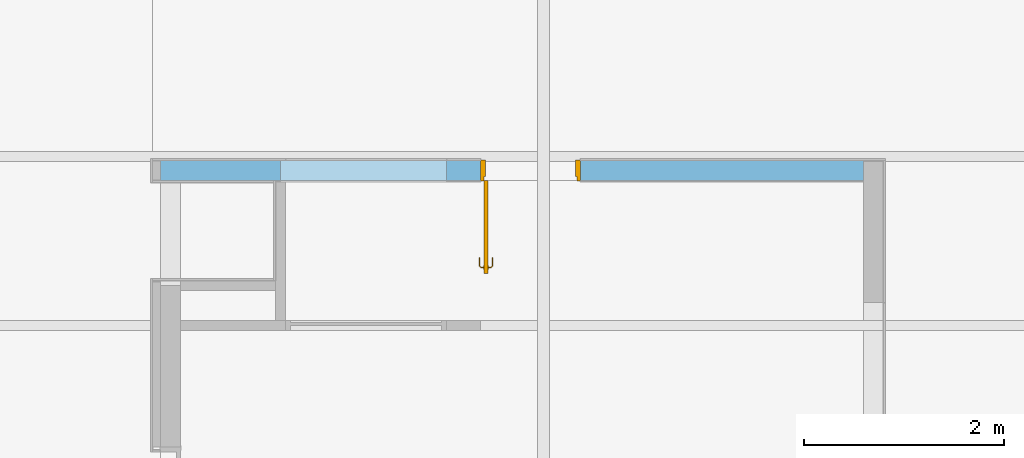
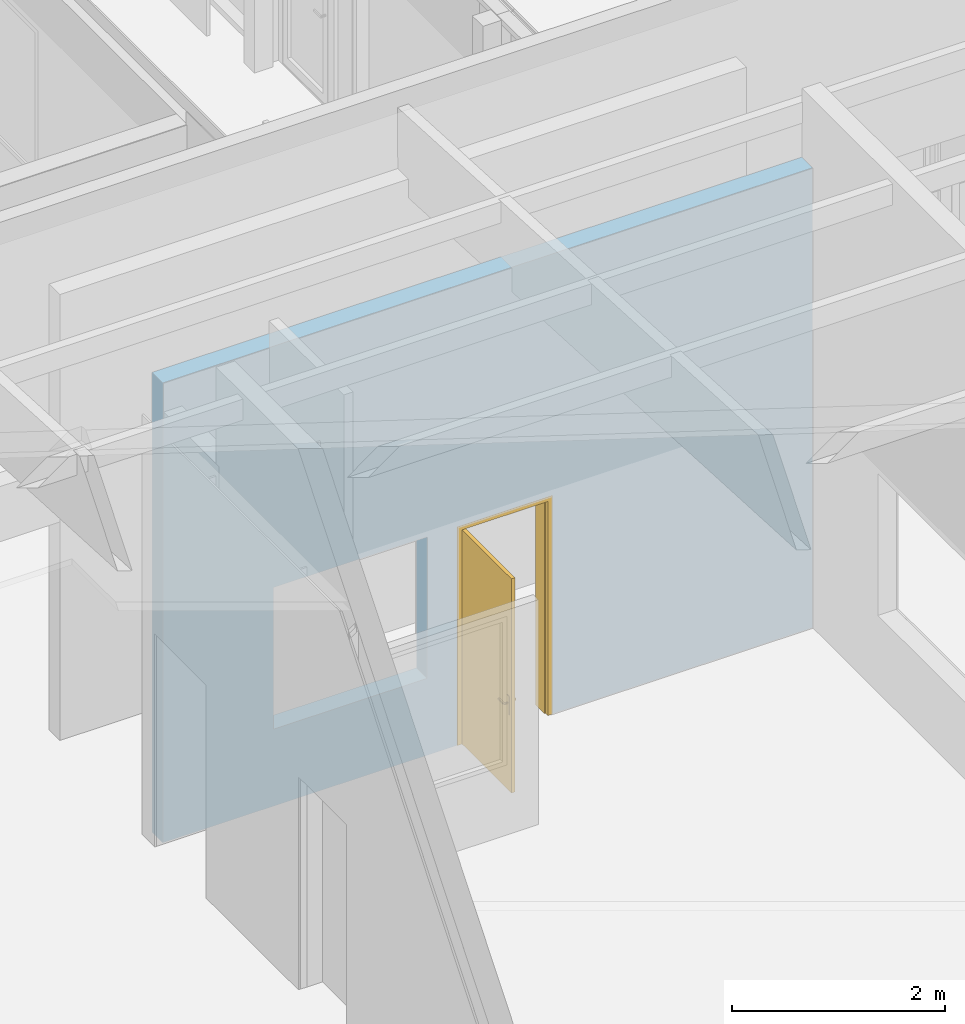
# One storey, part 190 of 240: 1 door, 2 openings, plus 1 element that does not belong to this part.
"""IFC2X3 building model written with IfcOpenShell, lengths in centimetres."""

import ifcopenshell
import ifcopenshell.guid

model = None  # the IFC model being written
_history = None  # IfcOwnerHistory: only IFC2X3 demands one
_inside = {}  # id of a spatial element -> (the spatial element, [elements in it])
_under = {}  # id of a project, library or spatial element -> (it, [spatial elements below it])
_declared = {}  # id of a project -> (the project, [libraries it declares])
_typed = {}  # id of a type object -> (the type object, [elements of that type])
_made_of = {}  # id of a material, layer set ... -> (it, [elements and type objects made of it])


def new_model(schema):
    """Start an empty IFC model of exactly this schema.

    Asked for "IFC4X3", IfcOpenShell would pick the latest addendum, in which some entities
    have other attributes; the version numbers below select the first issue.
    IFC2X3 requires an IfcOwnerHistory on every rooted entity: one is made here for all.
    """
    global model, _history
    if schema == "IFC4X3":
        model = ifcopenshell.file(schema_version=(4, 3, 0, 0))
    else:
        model = ifcopenshell.file(schema=schema)
    _inside.clear()
    _under.clear()
    _declared.clear()
    _typed.clear()
    _made_of.clear()
    _history = None
    if model.schema == "IFC2X3":
        org = make("IfcOrganization", Name="unknown")
        user = make(
            "IfcPersonAndOrganization",
            ThePerson=make("IfcPerson", FamilyName="unknown"),
            TheOrganization=org,
        )
        app = make(
            "IfcApplication",
            ApplicationDeveloper=org,
            Version="unknown",
            ApplicationFullName="unknown",
            ApplicationIdentifier="unknown",
        )
        _history = make(
            "IfcOwnerHistory",
            OwningUser=user,
            OwningApplication=app,
            ChangeAction="ADDED",
            CreationDate=0,
        )
    return model


def make(cls, **values):
    """One entity of the class cls with the attributes given. An attribute that is None is left unset."""
    return model.create_entity(
        cls, **{name: value for name, value in values.items() if value is not None}
    )


def entity(cls, *values):
    """Any entity or typed value of the class cls, its attributes in the order of the schema. None: left unset."""
    e = model.create_entity(cls)
    for i, value in enumerate(values):
        if value is not None:
            e[i] = value
    return e


def rooted(cls, **values):
    """An entity with a GlobalId (a new one), such as an element, a storey or a relation."""
    return make(cls, GlobalId=ifcopenshell.guid.new(), OwnerHistory=_history, **values)


def si_unit(unit_type, name, prefix=None):
    """IfcSIUnit, for example si_unit("LENGTHUNIT", "METRE", prefix="MILLI")."""
    return make("IfcSIUnit", UnitType=unit_type, Prefix=prefix, Name=name)


def converted_unit(unit_type, name, factor, base, dimensions=None, offset=None):
    """IfcConversionBasedUnit, such as the inch: factor (a typed value) times the base unit."""
    return make(
        "IfcConversionBasedUnit"
        if offset is None
        else "IfcConversionBasedUnitWithOffset",
        ConversionOffset=offset,
        Dimensions=None
        if dimensions is None
        else entity("IfcDimensionalExponents", *dimensions),
        UnitType=unit_type,
        Name=name,
        ConversionFactor=make(
            "IfcMeasureWithUnit", ValueComponent=factor, UnitComponent=base
        ),
    )


def derived_unit(unit_type, elements):
    """IfcDerivedUnit: a product of units, each with its exponent."""
    return make(
        "IfcDerivedUnit",
        Elements=[
            make("IfcDerivedUnitElement", Unit=unit, Exponent=power)
            for unit, power in elements
        ],
        UnitType=unit_type,
    )


def assignment(units):
    """IfcUnitAssignment: the units of a project."""
    return None if units is None else make("IfcUnitAssignment", Units=units)


def point(xyz):
    """IfcCartesianPoint."""
    return None if xyz is None else make("IfcCartesianPoint", Coordinates=xyz)


def direction(xyz):
    """IfcDirection."""
    return None if xyz is None else make("IfcDirection", DirectionRatios=xyz)


def frame(location, z_axis=None, x_axis=None):
    """IfcAxis2Placement3D, a coordinate frame: its origin and axes. An axis left out is left unset."""
    return make(
        "IfcAxis2Placement3D",
        Location=point(location),
        Axis=direction(z_axis),
        RefDirection=direction(x_axis),
    )


def frame_2d(location, x_axis=None):
    """IfcAxis2Placement2D, a coordinate frame in the plane: its origin and x axis."""
    return make(
        "IfcAxis2Placement2D", Location=point(location), RefDirection=direction(x_axis)
    )


def origin():
    """The frame at (0, 0, 0) with its axes left unset."""
    return frame((0.0, 0.0, 0.0))


def place(relative_to, where):
    """IfcLocalPlacement: puts the frame where relative to a parent placement (None: the world)."""
    return make(
        "IfcLocalPlacement", PlacementRelTo=relative_to, RelativePlacement=where
    )


def context(
    kind, dimensions, precision=None, world=None, true_north=None, identifier=None
):
    """IfcGeometricRepresentationContext, for example the 3D "Model" context."""
    return make(
        "IfcGeometricRepresentationContext",
        ContextIdentifier=identifier,
        ContextType=kind,
        CoordinateSpaceDimension=dimensions,
        Precision=precision,
        WorldCoordinateSystem=world,
        TrueNorth=true_north,
    )


def subcontext(parent, identifier, kind, view, scale=None):
    """IfcGeometricRepresentationSubContext, for example "Body" below "Model"."""
    return make(
        "IfcGeometricRepresentationSubContext",
        ContextIdentifier=identifier,
        ContextType=kind,
        ParentContext=parent,
        TargetScale=scale,
        TargetView=view,
    )


def project(units=None, contexts=None):
    """IfcProject with its units and contexts."""
    return rooted(
        "IfcProject",
        Name="project",
        RepresentationContexts=contexts,
        UnitsInContext=assignment(units),
    )


def spatial(cls, under=None, at=None, **own):
    """A site, building, storey or space (cls), placed at a placement, below another one or the project."""
    s = rooted(cls, ObjectPlacement=at, **own)
    if under is not None:
        _under.setdefault(under.id(), (under, []))[1].append(s)
    return s


def profile(cls, at=None, kind="AREA", **sizes):
    """A parametric profile (cls). Its sizes go by their IFC names, for example OverallWidth=200.0."""
    return make(cls, ProfileType=kind, Position=at, **sizes)


def rectangle(**sizes):
    """IfcRectangleProfileDef."""
    return profile("IfcRectangleProfileDef", **sizes)


def extrude(swept, where, along, depth):
    """IfcExtrudedAreaSolid: the profile swept, set in the frame where, extruded along a direction by depth."""
    return make(
        "IfcExtrudedAreaSolid",
        SweptArea=swept,
        Position=where,
        ExtrudedDirection=direction(along),
        Depth=depth,
    )


def faces_of(points, faces, orient=None, outer=None):
    """IfcFace entities. A face is a list of loops; a loop is a list of indices into points, from 0.

    orient and outer hold one flag for each loop. By default every Orientation is true, the
    first loop of a face is its IfcFaceOuterBound and the others are IfcFaceBound.
    """
    made = []
    for i, loops in enumerate(faces):
        bounds = []
        for j, loop in enumerate(loops):
            is_outer = j == 0 if outer is None else outer[i][j]
            bounds.append(
                make(
                    "IfcFaceOuterBound" if is_outer else "IfcFaceBound",
                    Bound=make("IfcPolyLoop", Polygon=[points[k] for k in loop]),
                    Orientation=True if orient is None else orient[i][j],
                )
            )
        made.append(make("IfcFace", Bounds=bounds))
    return made


def faceted_brep(points, faces, orient=None, outer=None, voids=None):
    """IfcFacetedBrep: a solid bounded by flat faces; with voids (closed shells), ...WithVoids."""
    shared = [point(p) for p in points]
    hull = make("IfcClosedShell", CfsFaces=faces_of(shared, faces, orient, outer))
    if voids is None:
        return make("IfcFacetedBrep", Outer=hull)
    return make(
        "IfcFacetedBrepWithVoids",
        Outer=hull,
        Voids=[
            make(cls, CfsFaces=faces_of(shared, fs, o, b)) for cls, fs, o, b in voids
        ],
    )


def shape(context_of_items, identifier, shape_type, items):
    """IfcShapeRepresentation: the items that make up one representation, for example the "Body"."""
    return make(
        "IfcShapeRepresentation",
        ContextOfItems=context_of_items,
        RepresentationIdentifier=identifier,
        RepresentationType=shape_type,
        Items=items,
    )


def source(mapping_origin, context_of_items, identifier, shape_type, items):
    """IfcRepresentationMap: a shape defined once, which mapped items show again and again."""
    return make(
        "IfcRepresentationMap",
        MappingOrigin=mapping_origin,
        MappedRepresentation=shape(context_of_items, identifier, shape_type, items),
    )


def transform(
    local_origin,
    x_axis=None,
    y_axis=None,
    z_axis=None,
    scale=None,
    scale2=None,
    scale3=None,
    uniform=True,
):
    """IfcCartesianTransformationOperator3D, or its non-uniform kind. x_axis, y_axis, z_axis: its Axis1, 2, 3."""
    if uniform:
        return make(
            "IfcCartesianTransformationOperator3D",
            Axis1=direction(x_axis),
            Axis2=direction(y_axis),
            LocalOrigin=point(local_origin),
            Scale=scale,
            Axis3=direction(z_axis),
        )
    return make(
        "IfcCartesianTransformationOperator3DnonUniform",
        Axis1=direction(x_axis),
        Axis2=direction(y_axis),
        LocalOrigin=point(local_origin),
        Scale=scale,
        Axis3=direction(z_axis),
        Scale2=scale2,
        Scale3=scale3,
    )


def mapped(mapping_source, mapping_target):
    """IfcMappedItem: shows the shape of a source again, moved by a transform."""
    return make(
        "IfcMappedItem", MappingSource=mapping_source, MappingTarget=mapping_target
    )


def material(Name=None, Category=None):
    """IfcMaterial."""
    return make("IfcMaterial", Name=Name, Category=Category)


def material_list(materials):
    """IfcMaterialList."""
    return make("IfcMaterialList", Materials=materials)


def layer(
    of_material, thickness, ventilated=None, Name=None, Category=None, Priority=None
):
    """IfcMaterialLayer: one layer of a wall or slab, of a material (None: an air gap)."""
    return make(
        "IfcMaterialLayer",
        Material=of_material,
        LayerThickness=thickness,
        IsVentilated=ventilated,
        Name=Name,
        Category=Category,
        Priority=Priority,
    )


def layer_set(layers, Name=None):
    """IfcMaterialLayerSet."""
    return make("IfcMaterialLayerSet", MaterialLayers=layers, LayerSetName=Name)


def layer_usage(for_layer_set, set_direction, sense, offset, extent=None):
    """IfcMaterialLayerSetUsage: how a layer set lies in its element."""
    return make(
        "IfcMaterialLayerSetUsage",
        ForLayerSet=for_layer_set,
        LayerSetDirection=set_direction,
        DirectionSense=sense,
        OffsetFromReferenceLine=offset,
        ReferenceExtent=extent,
    )


def made_of(thing, what):
    """Note that an element or type object is made of a material, layer set ...; save() writes the relation."""
    if what is not None:
        _made_of.setdefault(what.id(), (what, []))[1].append(thing)
    return thing


def type_object(cls, material=None, **own):
    """A type object (cls), such as IfcWallType, which elements share."""
    return made_of(rooted(cls, **own), material)


def type_shapes(of_type, sources):
    """Give a type object the sources (RepresentationMaps) that its elements show as mapped items."""
    of_type.RepresentationMaps = sources


def element(
    cls,
    number,
    at=None,
    inside=None,
    cuts=None,
    type_object=None,
    material=None,
    context=None,
    identifier="Body",
    shape_type=None,
    held_by="IfcProductDefinitionShape",
    body=None,
    shapes=None,
    **own,
):
    """One element of the class cls, such as IfcWall. Its Tag is "e" and its number.

    at: its placement. inside: the storey or other place that contains it. cuts: it is an
    opening in that element (IfcRelVoidsElement). A single representation is given by context,
    identifier, shape_type and body (its items); several are given by shapes. held_by: the class
    of the entity that holds the representations. save() writes the other relations.
    """
    e = rooted(cls, Tag="e%d" % number, ObjectPlacement=at, **own)
    if body is not None:
        shapes = [shape(context, identifier, shape_type, body)]
    if shapes is not None:
        e.Representation = make(held_by, Representations=shapes)
    if inside is not None:
        _inside.setdefault(inside.id(), (inside, []))[1].append(e)
    if cuts is not None:
        rooted(
            "IfcRelVoidsElement", RelatingBuildingElement=cuts, RelatedOpeningElement=e
        )
    if type_object is not None:
        _typed.setdefault(type_object.id(), (type_object, []))[1].append(e)
    return made_of(e, material)


def fill(opening, filler):
    """IfcRelFillsElement: the door or window that sits in an opening."""
    return rooted(
        "IfcRelFillsElement",
        RelatingOpeningElement=opening,
        RelatedBuildingElement=filler,
    )


def aggregate(whole, parts):
    """IfcRelAggregates: a whole, such as a stair, and the parts it consists of."""
    return rooted("IfcRelAggregates", RelatingObject=whole, RelatedObjects=parts)


def save(model, path):
    """Write the relations noted so far, then the file.

    IfcRelAggregates (storeys below a building ...), IfcRelContainedInSpatialStructure (elements
    in a storey), IfcRelDefinesByType, IfcRelAssociatesMaterial and IfcRelDeclares: one each for
    every whole, place, type object, material and project.
    """
    for whole, parts in _under.values():
        aggregate(whole, parts)
    for where, things in _inside.values():
        rooted(
            "IfcRelContainedInSpatialStructure",
            RelatedElements=things,
            RelatingStructure=where,
        )
    for kind, things in _typed.values():
        rooted("IfcRelDefinesByType", RelatedObjects=things, RelatingType=kind)
    for what, things in _made_of.values():
        rooted("IfcRelAssociatesMaterial", RelatedObjects=things, RelatingMaterial=what)
    for by, libraries in _declared.values():
        rooted("IfcRelDeclares", RelatingContext=by, RelatedDefinitions=libraries)
    model.write(path)


model = new_model("IFC2X3")

# Units and contexts
model_context = context("Model", 3, precision=0.001, world=origin(), true_north=direction((6.12303176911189e-17, 1.0)))
body_context = subcontext(model_context, "Body", "Model", "MODEL_VIEW")
ifc_project = project(units=[si_unit("LENGTHUNIT", "METRE", prefix="CENTI"), si_unit("AREAUNIT", "SQUARE_METRE"), si_unit("VOLUMEUNIT", "CUBIC_METRE"), converted_unit("PLANEANGLEUNIT", "DEGREE", entity("IfcRatioMeasure", 0.0174532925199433), si_unit("PLANEANGLEUNIT", "RADIAN"), dimensions=[0, 0, 0, 0, 0, 0, 0]), si_unit("MASSUNIT", "GRAM", prefix="KILO"), derived_unit("MASSDENSITYUNIT", [(si_unit("MASSUNIT", "GRAM", prefix="KILO"), 1), (si_unit("LENGTHUNIT", "METRE"), -3)]), si_unit("TIMEUNIT", "SECOND"), si_unit("FREQUENCYUNIT", "HERTZ"), si_unit("THERMODYNAMICTEMPERATUREUNIT", "DEGREE_CELSIUS"), derived_unit("THERMALTRANSMITTANCEUNIT", [(si_unit("MASSUNIT", "GRAM", prefix="KILO"), 1), (si_unit("THERMODYNAMICTEMPERATUREUNIT", "KELVIN"), -1), (si_unit("TIMEUNIT", "SECOND"), -3)]), derived_unit("VOLUMETRICFLOWRATEUNIT", [(si_unit("LENGTHUNIT", "METRE"), 3), (si_unit("TIMEUNIT", "SECOND"), -1)]), si_unit("ELECTRICCURRENTUNIT", "AMPERE"), si_unit("ELECTRICVOLTAGEUNIT", "VOLT"), si_unit("POWERUNIT", "WATT"), si_unit("FORCEUNIT", "NEWTON", prefix="KILO"), si_unit("ILLUMINANCEUNIT", "LUX"), si_unit("LUMINOUSFLUXUNIT", "LUMEN"), si_unit("LUMINOUSINTENSITYUNIT", "CANDELA"), derived_unit("USERDEFINED", [(si_unit("MASSUNIT", "GRAM", prefix="KILO"), -1), (si_unit("LENGTHUNIT", "METRE"), -2), (si_unit("TIMEUNIT", "SECOND"), 3), (si_unit("LUMINOUSFLUXUNIT", "LUMEN"), 1)]), derived_unit("LINEARVELOCITYUNIT", [(si_unit("LENGTHUNIT", "METRE"), 1), (si_unit("TIMEUNIT", "SECOND"), -1)]), si_unit("PRESSUREUNIT", "PASCAL"), derived_unit("USERDEFINED", [(si_unit("LENGTHUNIT", "METRE"), -2), (si_unit("MASSUNIT", "GRAM", prefix="KILO"), 1), (si_unit("TIMEUNIT", "SECOND"), -2)])], contexts=[model_context])

# Site, building, storey
site_placement = place(None, frame((-2781.94577612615, 7442.24238424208, 0.0)))
site = spatial("IfcSite", under=ifc_project, at=site_placement, Name="Default", CompositionType="ELEMENT")
building_placement = place(site_placement, origin())
building = spatial("IfcBuilding", under=site, at=building_placement, CompositionType="ELEMENT")
storey_placement = place(building_placement, origin())
storey = spatial("IfcBuildingStorey", under=building, at=storey_placement, Name="N00 - COO", CompositionType="ELEMENT", Elevation=0.0)

# Wall, openings, door
ifc_material_1 = material(Name="01 - Maçonnerie")
ifc_layer = layer(ifc_material_1, 20.0)
ifc_layer_set = layer_set([ifc_layer], Name="Mur de base:04 - Structure - béton - 20cm")
ifc_layer_usage = layer_usage(ifc_layer_set, "AXIS2", "NEGATIVE", 10.0)
wall_type = type_object("IfcWallType", Name="Mur de base:04 - Structure - béton - 20cm", PredefinedType="STANDARD", material=ifc_layer_set)
wall_placement = place(building_placement, frame((-9624.98738089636, -4408.50027342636, 0.0)))
wall = element("IfcWallStandardCase", 1, at=wall_placement, inside=storey, type_object=wall_type, material=ifc_layer_usage, Name="Mur de base:04 - Structure - béton - 20cm", ObjectType="Mur de base:04 - Structure - béton - 20cm", context=body_context, shape_type="SweptSolid", body=[
    extrude(rectangle(XDim=702.999999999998, YDim=20.0000000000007, at=frame_2d((351.499999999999, 0.0), x_axis=(-1.0, 0.0))), origin(), (0.0, 0.0, 1.0), 526.0),
])
opening_1_placement = place(wall_placement, origin())
element("IfcOpeningElement", 2, at=opening_1_placement, cuts=wall, Name="Mur de base:04 - Structure - béton - 20cm", ObjectType="Opening", context=body_context, shape_type="SweptSolid", body=[
    extrude(rectangle(XDim=162.0, YDim=165.999999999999, at=frame_2d((0.0, -8.66862137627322e-13), x_axis=(1.0, 0.0))), frame((203.0, -10.0, 169.0), z_axis=(0.0, 1.0, 0.0), x_axis=(0.0, 0.0, -1.0)), (0.0, 0.0, 1.0), 20.0000000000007),
])
opening_2_placement = place(wall_placement, frame((420.0, 10.0, 0.0)))
opening_2 = element("IfcOpeningElement", 3, at=opening_2_placement, cuts=wall, Name="Int. Simple:PP (0.93m x 2.50m):1", ObjectType="Opening", context=body_context, shape_type="SweptSolid", body=[
    extrude(rectangle(XDim=248.500000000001, YDim=99.9999999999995, at=frame_2d((124.250000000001, 49.9999999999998), x_axis=(1.0, 0.0))), frame((0.0, 0.0, 0.0), z_axis=(0.0, -1.0, 0.0), x_axis=(0.0, 0.0, 1.0)), (0.0, 0.0, 1.0), 20.0),
])
ifc_material_2 = material(Name="Finition Peinture - Blanc satiné")
ifc_material_3 = material(Name="Bois - Panneau de porte")
ifc_material_4 = material(Name="Bois - Cadre de porte")
ifc_material_list_1 = material_list([ifc_material_2, ifc_material_3, ifc_material_4])
ifc_material_list_2 = material_list([ifc_material_2, ifc_material_3, ifc_material_4])
door_style = type_object("IfcDoorStyle", Name="PP (0.93m x 2.50m)", ConstructionType="NOTDEFINED", OperationType="SINGLE_SWING_RIGHT", ParameterTakesPrecedence=False, Sizeable=False, material=ifc_material_list_2)
shared_shape = source(origin(), body_context, "Body", "Brep", [
    faceted_brep([(10.0, -89.0, 87.0), (10.0, -89.0, 108.0), (10.0, -88.0352761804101, 108.399601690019), (10.0, -87.0, 108.535898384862), (10.0, -85.96472381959, 108.399601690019), (10.0, -85.0, 108.0), (10.0, -85.0, 87.0), (10.0, -85.9647238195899, 86.6003983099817), (10.0, -87.0, 86.464101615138), (10.0, -88.03527618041, 86.6003983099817), (10.500000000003, -89.0, 108.0), (10.500000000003, -89.0, 87.0), (10.500000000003, -88.03527618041, 86.6003983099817), (10.500000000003, -87.0, 86.464101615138), (10.500000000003, -85.9647238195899, 86.6003983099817), (10.500000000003, -85.0, 87.0), (10.500000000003, -85.0, 108.0), (10.500000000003, -85.96472381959, 108.399601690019), (10.500000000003, -87.0, 108.535898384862), (10.500000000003, -88.0352761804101, 108.399601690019)], [[[0, 1, 2, 3, 4, 5, 6, 7, 8, 9]], [[10, 11, 12, 13, 14, 15, 16, 17, 18, 19]], [[9, 12, 11, 0]], [[8, 13, 12, 9]], [[7, 14, 13, 8]], [[7, 6, 15, 14]], [[15, 6, 5, 16]], [[4, 17, 16, 5]], [[3, 18, 17, 4]], [[2, 19, 18, 3]], [[2, 1, 10, 19]], [[11, 10, 1, 0]]]),
    faceted_brep([(14.500000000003, -89.0, 87.0), (14.500000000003, -89.0, 108.0), (14.500000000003, -88.0352761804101, 108.399601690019), (14.500000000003, -87.0, 108.535898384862), (14.500000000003, -85.96472381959, 108.399601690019), (14.500000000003, -85.0, 108.0), (14.500000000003, -85.0, 87.0), (14.500000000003, -85.9647238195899, 86.6003983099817), (14.500000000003, -87.0, 86.464101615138), (14.500000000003, -88.03527618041, 86.6003983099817), (15.0, -87.0, 108.535898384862), (15.0, -88.0352761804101, 108.399601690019), (15.0, -89.0, 108.0), (15.0, -89.0, 87.0), (15.0, -88.03527618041, 86.6003983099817), (15.0, -87.0, 86.464101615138), (15.0, -85.9647238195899, 86.6003983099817), (15.0, -85.0, 87.0), (15.0, -85.0, 108.0), (15.0, -85.96472381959, 108.399601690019)], [[[0, 1, 2, 3, 4, 5, 6, 7, 8, 9]], [[10, 11, 12, 13, 14, 15, 16, 17, 18, 19]], [[4, 19, 18, 5]], [[3, 10, 19, 4]], [[2, 11, 10, 3]], [[2, 1, 12, 11]], [[13, 12, 1, 0]], [[9, 14, 13, 0]], [[8, 15, 14, 9]], [[7, 16, 15, 8]], [[7, 6, 17, 16]], [[17, 6, 5, 18]]]),
    faceted_brep([(10.0, -86.7974701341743, 100.778044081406), (10.0, -87.2025298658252, 100.778044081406), (10.0, -87.6000000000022, 100.699999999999), (10.0, -87.6000000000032, 99.2999999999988), (10.0, -87.202529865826, 99.221955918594), (10.0, -86.7974701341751, 99.2219559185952), (10.0, -86.3999999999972, 99.3000000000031), (10.0, -86.3999999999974, 100.7), (7.39954245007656, -87.2025298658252, 100.778044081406), (7.2349049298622, -87.6000000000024, 100.7), (7.56732368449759, -86.7974701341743, 100.778044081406), (6.19971379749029, -85.4298602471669, 100.778044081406), (5.79465406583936, -85.5976414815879, 100.778044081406), (7.73196120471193, -86.3999999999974, 100.7), (7.731961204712, -86.3999999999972, 99.3000000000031), (7.56732368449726, -86.7974701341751, 99.2219559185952), (7.39954245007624, -87.202529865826, 99.221955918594), (5.79465406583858, -85.5976414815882, 99.221955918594), (6.1997137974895, -85.4298602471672, 99.2219559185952), (7.2349049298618, -87.6000000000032, 99.2999999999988), (5.39718393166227, -85.7622790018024, 100.7), (6.59718393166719, -85.2652227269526, 100.7), (6.59718393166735, -85.2652227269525, 99.3000000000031), (5.39718393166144, -85.7622790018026, 99.2999999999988), (5.39718393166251, -76.9981359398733, 100.7), (5.79465406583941, -76.9981359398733, 100.778044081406), (6.19971379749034, -76.9981359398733, 100.778044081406), (6.59718393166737, -76.9981359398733, 100.699999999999), (6.59718393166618, -76.9981359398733, 99.3000000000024), (6.19971379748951, -76.9981359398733, 99.2219559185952), (5.7946540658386, -76.9981359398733, 99.221955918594), (5.39718393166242, -76.9981359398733, 99.2999999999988), (5.99718393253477, -81.2139980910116, 100.78786867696), (5.39718393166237, -81.7692302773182, 100.7), (6.59718393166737, -81.1316793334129, 100.7), (6.59718393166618, -81.1316793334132, 99.3000000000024), (5.99718392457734, -81.2139981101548, 99.2121313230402), (5.39718393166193, -81.7692310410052, 99.2999999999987)], [[[0, 1, 2, 3, 4, 5, 6, 7]], [[2, 1, 8, 9]], [[1, 0, 10, 11, 12, 8]], [[0, 7, 13, 10]], [[14, 13, 7, 6]], [[5, 15, 14, 6]], [[5, 4, 16, 17, 18, 15]], [[3, 19, 16, 4]], [[9, 19, 3, 2]], [[9, 8, 12, 20]], [[10, 13, 21, 11]], [[22, 21, 13, 14]], [[14, 15, 18, 22]], [[16, 19, 23, 17]], [[20, 23, 19, 9]], [[24, 25, 26, 27, 28, 29, 30, 31]], [[32, 25, 33]], [[33, 25, 24]], [[33, 20, 12]], [[11, 34, 32]], [[34, 11, 21]], [[27, 26, 34]], [[32, 26, 25]], [[32, 34, 26]], [[32, 33, 12]], [[11, 32, 12]], [[21, 22, 35, 28, 27, 34]], [[36, 29, 35]], [[30, 36, 37]], [[18, 35, 22]], [[29, 28, 35]], [[30, 37, 31]], [[37, 17, 23]], [[36, 17, 37]], [[36, 18, 17]], [[36, 35, 18]], [[29, 36, 30]], [[23, 20, 33, 24, 31, 37]]]),
    faceted_brep([(15.0, -86.7974701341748, 99.2219559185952), (15.0, -87.2025298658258, 99.221955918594), (15.0, -87.6000000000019, 99.2999999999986), (15.0, -87.6000000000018, 100.7), (15.0, -87.2025298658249, 100.778044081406), (15.0, -86.797470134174, 100.778044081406), (15.0, -86.3999999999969, 100.7), (15.0, -86.3999999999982, 99.3000000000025), (17.2485204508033, -86.399999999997, 100.7), (17.2485204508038, -86.399999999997, 99.3000000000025), (17.4131579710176, -86.7974701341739, 100.778044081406), (17.5809392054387, -87.2025298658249, 100.778044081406), (19.1995784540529, -85.5838906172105, 100.778044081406), (18.794518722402, -85.4161093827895, 100.778044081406), (17.745576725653, -87.6000000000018, 100.7), (17.7455767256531, -87.6000000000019, 99.2999999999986), (17.5809392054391, -87.2025298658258, 99.221955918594), (17.413157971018, -86.7974701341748, 99.2219559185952), (18.7945187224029, -85.4161093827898, 99.2219559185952), (19.1995784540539, -85.5838906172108, 99.221955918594), (18.397048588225, -85.2514718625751, 100.7), (18.3970485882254, -85.2514718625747, 99.3000000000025), (19.5970485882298, -85.7485281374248, 100.7), (19.59704858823, -85.7485281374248, 99.2999999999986), (18.7945187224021, -76.9954216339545, 100.778044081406), (19.199578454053, -76.9954216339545, 100.778044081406), (19.59704858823, -76.9954216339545, 100.7), (19.597048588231, -76.9954216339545, 99.2999999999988), (19.1995784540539, -76.9954216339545, 99.221955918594), (18.7945187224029, -76.9954216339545, 99.2219559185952), (18.397048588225, -76.9954216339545, 99.3000000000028), (18.3970485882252, -76.9954216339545, 100.7), (18.3970485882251, -81.1234467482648, 100.7), (18.3970485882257, -81.1234479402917, 99.3000000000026), (18.9970485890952, -81.2057655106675, 100.78786867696), (19.5970485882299, -81.7554794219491, 100.7), (19.597048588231, -81.75547956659, 99.2999999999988), (18.9970485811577, -81.2057654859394, 99.2121313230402)], [[[0, 1, 2, 3, 4, 5, 6, 7]], [[8, 9, 7, 6]], [[5, 10, 8, 6]], [[5, 4, 11, 12, 13, 10]], [[3, 14, 11, 4]], [[14, 3, 2, 15]], [[2, 1, 16, 15]], [[1, 0, 17, 18, 19, 16]], [[0, 7, 9, 17]], [[20, 21, 9, 8]], [[8, 10, 13, 20]], [[14, 22, 12, 11]], [[23, 22, 14, 15]], [[15, 16, 19, 23]], [[17, 9, 21, 18]], [[24, 25, 26, 27, 28, 29, 30, 31]], [[21, 20, 32, 31, 30, 33]], [[34, 24, 32]], [[25, 34, 35]], [[13, 32, 20]], [[24, 31, 32]], [[25, 35, 26]], [[35, 12, 22]], [[34, 12, 35]], [[34, 13, 12]], [[34, 32, 13]], [[24, 34, 25]], [[22, 23, 36, 27, 26, 35]], [[37, 28, 36]], [[36, 28, 27]], [[36, 23, 19]], [[18, 33, 37]], [[33, 18, 21]], [[30, 29, 33]], [[37, 29, 28]], [[37, 33, 29]], [[37, 36, 19]], [[18, 37, 19]]]),
    faceted_brep([(14.5000000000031, -93.0, 245.0), (14.5000000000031, -93.0, 0.0), (14.5000000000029, 0.0, 0.0), (14.5000000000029, 0.0, 245.0), (10.5000000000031, -93.0, 245.0), (10.5000000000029, 0.0, 245.0), (10.5000000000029, 0.0, 0.0), (10.5000000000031, -93.0, 0.0)], [[[0, 1, 2, 3]], [[4, 5, 6, 7]], [[3, 5, 4, 0]], [[2, 6, 5, 3]], [[1, 7, 6, 2]], [[0, 4, 7, 1]]]),
    faceted_brep([(107.0, 20.0, 0.0), (107.0, 0.0, 0.0), (108.500000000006, 0.0, 0.0), (108.500000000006, -0.500000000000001, 0.0), (103.500000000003, -0.500000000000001, 0.0), (103.500000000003, 4.0, 0.0), (102.0, 4.0, 0.0), (102.0, 20.5000000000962, 0.0), (108.500000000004, 20.5000000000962, 0.0), (108.500000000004, 20.0, 0.0), (108.500000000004, 20.0, 250.0), (5.50000000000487, 20.0, 250.0), (5.50000000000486, 20.0, 0.0), (7.0, 20.0, 0.0), (7.0, 20.0, 248.500000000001), (107.0, 20.0, 248.500000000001), (108.500000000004, 20.5000000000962, 250.0), (102.0, 20.5000000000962, 243.5), (12.0, 20.5000000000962, 243.5), (12.0, 20.5000000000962, 0.0), (5.50000000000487, 20.5000000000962, 0.0), (5.50000000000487, 20.5000000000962, 250.0), (102.0, 4.0, 243.5), (103.500000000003, 4.0, 245.0), (10.5000000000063, 4.0, 245.0), (10.5000000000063, 4.0, 0.0), (12.0, 4.0, 0.0), (12.0, 4.0, 243.5), (103.500000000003, -0.500000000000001, 245.0), (108.500000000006, -0.500000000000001, 250.0), (5.5000000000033, -0.500000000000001, 250.0), (5.50000000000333, -0.500000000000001, 0.0), (10.5000000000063, -0.500000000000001, 0.0), (10.5000000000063, -0.500000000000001, 245.0), (108.500000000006, 0.0, 250.0), (107.0, 0.0, 248.500000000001), (7.0, 0.0, 248.500000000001), (7.0, 0.0, 0.0), (5.5000000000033, 0.0, 0.0), (5.50000000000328, 0.0, 250.0)], [[[0, 1, 2, 3, 4, 5, 6, 7, 8, 9]], [[9, 10, 11, 12, 13, 14, 15, 0]], [[8, 16, 10, 9]], [[7, 17, 18, 19, 20, 21, 16, 8]], [[7, 6, 22, 17]], [[5, 23, 24, 25, 26, 27, 22, 6]], [[5, 4, 28, 23]], [[3, 29, 30, 31, 32, 33, 28, 4]], [[2, 34, 29, 3]], [[1, 35, 36, 37, 38, 39, 34, 2]], [[0, 15, 35, 1]], [[14, 13, 37, 36]], [[13, 12, 20, 19, 26, 25, 32, 31, 38, 37]], [[21, 20, 12, 11]], [[27, 26, 19, 18]], [[33, 32, 25, 24]], [[39, 38, 31, 30]], [[16, 21, 11, 10]], [[22, 27, 18, 17]], [[28, 33, 24, 23]], [[34, 39, 30, 29]], [[15, 14, 36, 35]]]),
])
type_shapes(door_style, [shared_shape])
door_placement = place(opening_2_placement, frame((-107.0, -20.0, 0.0)))
door = element("IfcDoor", 4, at=door_placement, inside=storey, type_object=door_style, material=ifc_material_list_1, Name="Int. Simple:PP (0.93m x 2.50m)", ObjectType="Int. Simple:PP (0.93m x 2.50m)", OverallHeight=248.500000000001, OverallWidth=99.9999999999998, context=body_context, shape_type="MappedRepresentation", body=[
    mapped(shared_shape, transform((0.0, 0.0, 0.0), scale=1.0)),
])
fill(opening_2, door)

save(model, "model.ifc")
